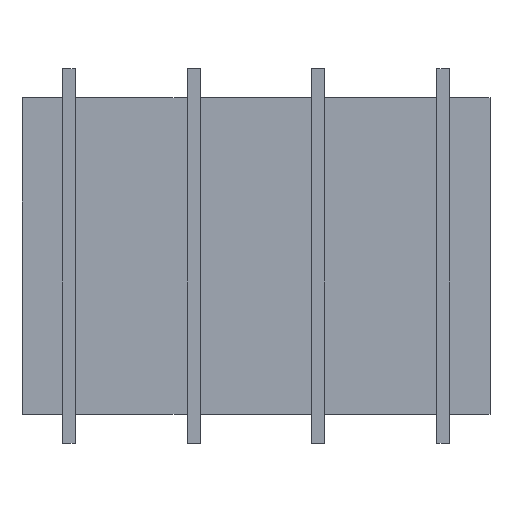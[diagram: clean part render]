
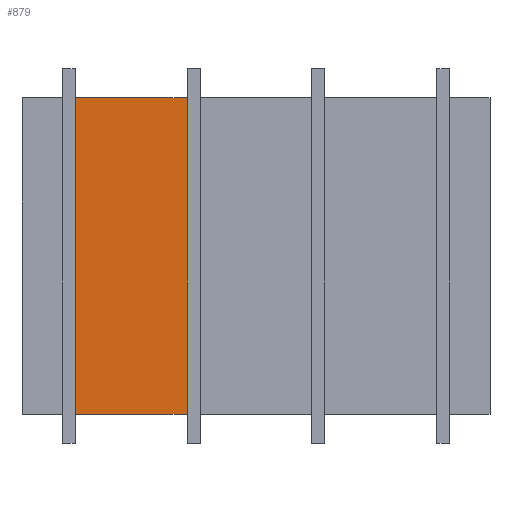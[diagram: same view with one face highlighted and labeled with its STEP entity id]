
A CAD part, top view. The second image highlights one B-rep face of the part: STEP entity #879.
In plain terms, the highlighted planar face has unit normal (0, 0, 1).
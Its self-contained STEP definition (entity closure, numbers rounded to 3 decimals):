
#44 = PLANE('',#45);
#45 = AXIS2_PLACEMENT_3D('',#46,#47,#48);
#46 = CARTESIAN_POINT('',(-45.,-30.4,-2.5));
#47 = DIRECTION('',(0.,1.,0.));
#48 = DIRECTION('',(0.,0.,1.));
#100 = PLANE('',#101);
#101 = AXIS2_PLACEMENT_3D('',#102,#103,#104);
#102 = CARTESIAN_POINT('',(-45.,30.4,-2.5));
#103 = DIRECTION('',(0.,1.,0.));
#104 = DIRECTION('',(0.,0.,1.));
#189 = VERTEX_POINT('',#190);
#190 = CARTESIAN_POINT('',(-34.75,-30.4,2.5));
#216 = EDGE_CURVE('',#189,#217,#219,.T.);
#217 = VERTEX_POINT('',#218);
#218 = CARTESIAN_POINT('',(-13.25,-30.4,2.5));
#219 = SURFACE_CURVE('',#220,(#224,#231),.PCURVE_S1.);
#220 = LINE('',#221,#222);
#221 = CARTESIAN_POINT('',(-45.,-30.4,2.5));
#222 = VECTOR('',#223,1.);
#223 = DIRECTION('',(1.,0.,0.));
#224 = PCURVE('',#44,#225);
#225 = DEFINITIONAL_REPRESENTATION('',(#226),#230);
#226 = LINE('',#227,#228);
#227 = CARTESIAN_POINT('',(5.,0.));
#228 = VECTOR('',#229,1.);
#229 = DIRECTION('',(0.,1.));
#230 = ( GEOMETRIC_REPRESENTATION_CONTEXT(2) 
PARAMETRIC_REPRESENTATION_CONTEXT() REPRESENTATION_CONTEXT('2D SPACE',''
  ) );
#231 = PCURVE('',#232,#237);
#232 = PLANE('',#233);
#233 = AXIS2_PLACEMENT_3D('',#234,#235,#236);
#234 = CARTESIAN_POINT('',(-45.,-30.4,2.5));
#235 = DIRECTION('',(0.,0.,1.));
#236 = DIRECTION('',(1.,0.,0.));
#237 = DEFINITIONAL_REPRESENTATION('',(#238),#242);
#238 = LINE('',#239,#240);
#239 = CARTESIAN_POINT('',(0.,0.));
#240 = VECTOR('',#241,1.);
#241 = DIRECTION('',(1.,0.));
#242 = ( GEOMETRIC_REPRESENTATION_CONTEXT(2) 
PARAMETRIC_REPRESENTATION_CONTEXT() REPRESENTATION_CONTEXT('2D SPACE',''
  ) );
#521 = VERTEX_POINT('',#522);
#522 = CARTESIAN_POINT('',(-34.75,30.4,2.5));
#548 = EDGE_CURVE('',#521,#549,#551,.T.);
#549 = VERTEX_POINT('',#550);
#550 = CARTESIAN_POINT('',(-13.25,30.4,2.5));
#551 = SURFACE_CURVE('',#552,(#556,#563),.PCURVE_S1.);
#552 = LINE('',#553,#554);
#553 = CARTESIAN_POINT('',(-45.,30.4,2.5));
#554 = VECTOR('',#555,1.);
#555 = DIRECTION('',(1.,0.,0.));
#556 = PCURVE('',#100,#557);
#557 = DEFINITIONAL_REPRESENTATION('',(#558),#562);
#558 = LINE('',#559,#560);
#559 = CARTESIAN_POINT('',(5.,0.));
#560 = VECTOR('',#561,1.);
#561 = DIRECTION('',(0.,1.));
#562 = ( GEOMETRIC_REPRESENTATION_CONTEXT(2) 
PARAMETRIC_REPRESENTATION_CONTEXT() REPRESENTATION_CONTEXT('2D SPACE',''
  ) );
#563 = PCURVE('',#232,#564);
#564 = DEFINITIONAL_REPRESENTATION('',(#565),#569);
#565 = LINE('',#566,#567);
#566 = CARTESIAN_POINT('',(0.,60.8));
#567 = VECTOR('',#568,1.);
#568 = DIRECTION('',(1.,0.));
#569 = ( GEOMETRIC_REPRESENTATION_CONTEXT(2) 
PARAMETRIC_REPRESENTATION_CONTEXT() REPRESENTATION_CONTEXT('2D SPACE',''
  ) );
#867 = PLANE('',#868);
#868 = AXIS2_PLACEMENT_3D('',#869,#870,#871);
#869 = CARTESIAN_POINT('',(-34.75,-36.,2.5));
#870 = DIRECTION('',(-1.,0.,0.));
#871 = DIRECTION('',(0.,1.,0.));
#879 = ADVANCED_FACE('',(#880),#232,.T.);
#880 = FACE_BOUND('',#881,.T.);
#881 = EDGE_LOOP('',(#882,#883,#904,#905));
#882 = ORIENTED_EDGE('',*,*,#548,.F.);
#883 = ORIENTED_EDGE('',*,*,#884,.F.);
#884 = EDGE_CURVE('',#189,#521,#885,.T.);
#885 = SURFACE_CURVE('',#886,(#890,#897),.PCURVE_S1.);
#886 = LINE('',#887,#888);
#887 = CARTESIAN_POINT('',(-34.75,-36.,2.5));
#888 = VECTOR('',#889,1.);
#889 = DIRECTION('',(0.,1.,0.));
#890 = PCURVE('',#232,#891);
#891 = DEFINITIONAL_REPRESENTATION('',(#892),#896);
#892 = LINE('',#893,#894);
#893 = CARTESIAN_POINT('',(10.25,-5.6));
#894 = VECTOR('',#895,1.);
#895 = DIRECTION('',(0.,1.));
#896 = ( GEOMETRIC_REPRESENTATION_CONTEXT(2) 
PARAMETRIC_REPRESENTATION_CONTEXT() REPRESENTATION_CONTEXT('2D SPACE',''
  ) );
#897 = PCURVE('',#867,#898);
#898 = DEFINITIONAL_REPRESENTATION('',(#899),#903);
#899 = LINE('',#900,#901);
#900 = CARTESIAN_POINT('',(0.,0.));
#901 = VECTOR('',#902,1.);
#902 = DIRECTION('',(1.,0.));
#903 = ( GEOMETRIC_REPRESENTATION_CONTEXT(2) 
PARAMETRIC_REPRESENTATION_CONTEXT() REPRESENTATION_CONTEXT('2D SPACE',''
  ) );
#904 = ORIENTED_EDGE('',*,*,#216,.T.);
#905 = ORIENTED_EDGE('',*,*,#906,.F.);
#906 = EDGE_CURVE('',#549,#217,#907,.T.);
#907 = SURFACE_CURVE('',#908,(#912,#919),.PCURVE_S1.);
#908 = LINE('',#909,#910);
#909 = CARTESIAN_POINT('',(-13.25,36.,2.5));
#910 = VECTOR('',#911,1.);
#911 = DIRECTION('',(0.,-1.,0.));
#912 = PCURVE('',#232,#913);
#913 = DEFINITIONAL_REPRESENTATION('',(#914),#918);
#914 = LINE('',#915,#916);
#915 = CARTESIAN_POINT('',(31.75,66.4));
#916 = VECTOR('',#917,1.);
#917 = DIRECTION('',(0.,-1.));
#918 = ( GEOMETRIC_REPRESENTATION_CONTEXT(2) 
PARAMETRIC_REPRESENTATION_CONTEXT() REPRESENTATION_CONTEXT('2D SPACE',''
  ) );
#919 = PCURVE('',#920,#925);
#920 = PLANE('',#921);
#921 = AXIS2_PLACEMENT_3D('',#922,#923,#924);
#922 = CARTESIAN_POINT('',(-13.25,36.,2.5));
#923 = DIRECTION('',(1.,0.,-0.));
#924 = DIRECTION('',(0.,-1.,0.));
#925 = DEFINITIONAL_REPRESENTATION('',(#926),#930);
#926 = LINE('',#927,#928);
#927 = CARTESIAN_POINT('',(0.,0.));
#928 = VECTOR('',#929,1.);
#929 = DIRECTION('',(1.,0.));
#930 = ( GEOMETRIC_REPRESENTATION_CONTEXT(2) 
PARAMETRIC_REPRESENTATION_CONTEXT() REPRESENTATION_CONTEXT('2D SPACE',''
  ) );
